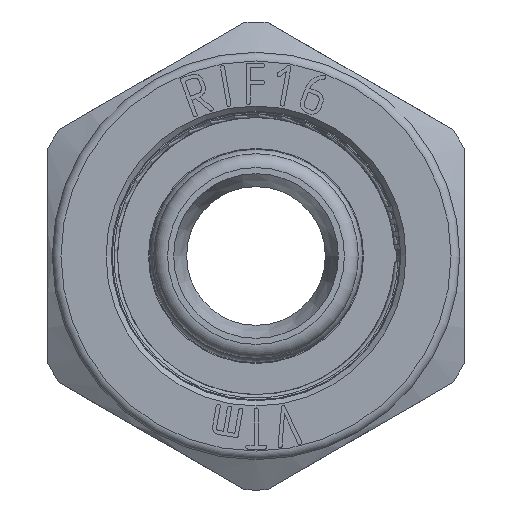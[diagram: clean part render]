
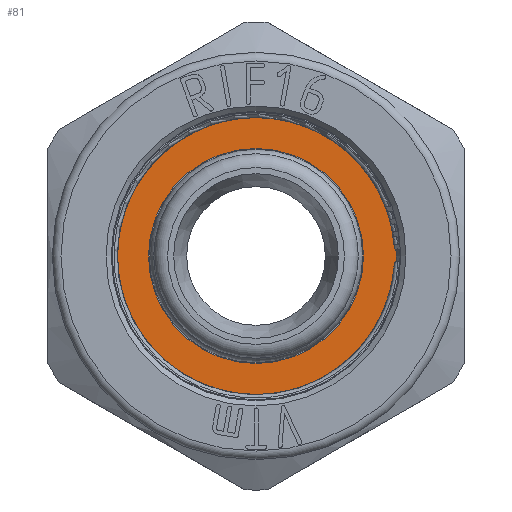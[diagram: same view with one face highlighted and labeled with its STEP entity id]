
A CAD part, front view. The second image highlights one B-rep face of the part: STEP entity #81.
In plain terms, the highlighted planar face has unit normal (0, -1, 0).
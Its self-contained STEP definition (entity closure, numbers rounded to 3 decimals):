
#81=ADVANCED_FACE('',(#714,#716),#718,.T.);
#714=FACE_BOUND('',#715,.T.);
#715=EDGE_LOOP('',(#4643));
#716=FACE_BOUND('',#717,.T.);
#717=EDGE_LOOP('',(#4644));
#718=PLANE('',#719);
#719=AXIS2_PLACEMENT_3D('',#720,#721,#722);
#720=CARTESIAN_POINT('',(0.,-8.,0.));
#721=DIRECTION('',(0.,-1.,0.));
#722=DIRECTION('',(1.,0.,0.));
#4643=ORIENTED_EDGE('',*,*,#8199,.T.);
#4644=ORIENTED_EDGE('',*,*,#8203,.T.);
#8199=EDGE_CURVE('',#9660,#9660,#9661,.F.);
#8203=EDGE_CURVE('',#9668,#9668,#9669,.F.);
#9660=VERTEX_POINT('',#12142);
#9661=CIRCLE('',#12143,8.1);
#9668=VERTEX_POINT('',#12162);
#9669=CIRCLE('',#12163,6.2);
#12142=CARTESIAN_POINT('',(-8.1,-8.,0.));
#12143=AXIS2_PLACEMENT_3D('',#12144,#12145,#12146);
#12144=CARTESIAN_POINT('',(0.,-8.,0.));
#12145=DIRECTION('',(0.,1.,0.));
#12146=DIRECTION('',(-1.,0.,0.));
#12162=CARTESIAN_POINT('',(6.2,-8.,0.));
#12163=AXIS2_PLACEMENT_3D('',#12164,#12165,#12166);
#12164=CARTESIAN_POINT('',(0.,-8.,0.));
#12165=DIRECTION('',(0.,-1.,0.));
#12166=DIRECTION('',(1.,0.,0.));
